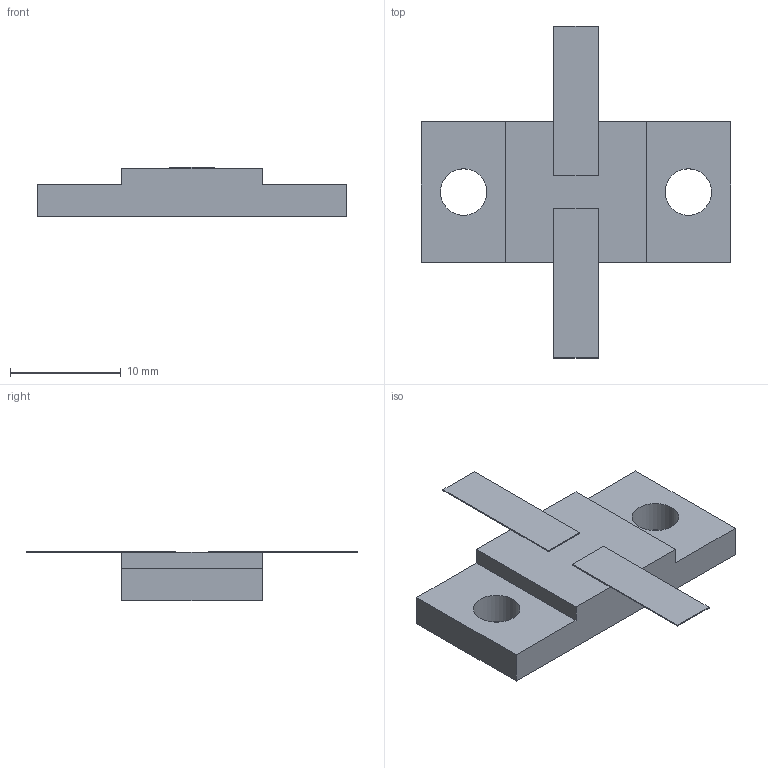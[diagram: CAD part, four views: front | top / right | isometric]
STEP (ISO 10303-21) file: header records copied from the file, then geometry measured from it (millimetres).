
FILE_DESCRIPTION(('STEP AP203'), '1');
FILE_NAME('Ð1-17-400', '', ('UNSPECIFIED'), ('UNSPECIFIED'), 'ASCON STEP Converter 1.6', 'ASCON Math Kernel', '');
FILE_SCHEMA(('CONFIG_CONTROL_DESIGN'));
Length unit declared in the file: millimetre
Bounding box: 28 x 30 x 4.5 mm (x, y, z)
Volume: 1203.4 mm3; surface area: 1199.4 mm2
Topology: 1 solids, 2 shells, 43 faces, 113 edges, 74 vertices
Faces by surface type: plane 37, cylinder 6
Full cylindrical faces by diameter (mm): 4.2 x2
Entity records: 1695 total; most frequent: CARTESIAN_POINT 229, ORIENTED_EDGE 222, DIRECTION 211, EDGE_CURVE 111, LINE 99, VECTOR 99, VERTEX_POINT 74, AXIS2_PLACEMENT_3D 56
